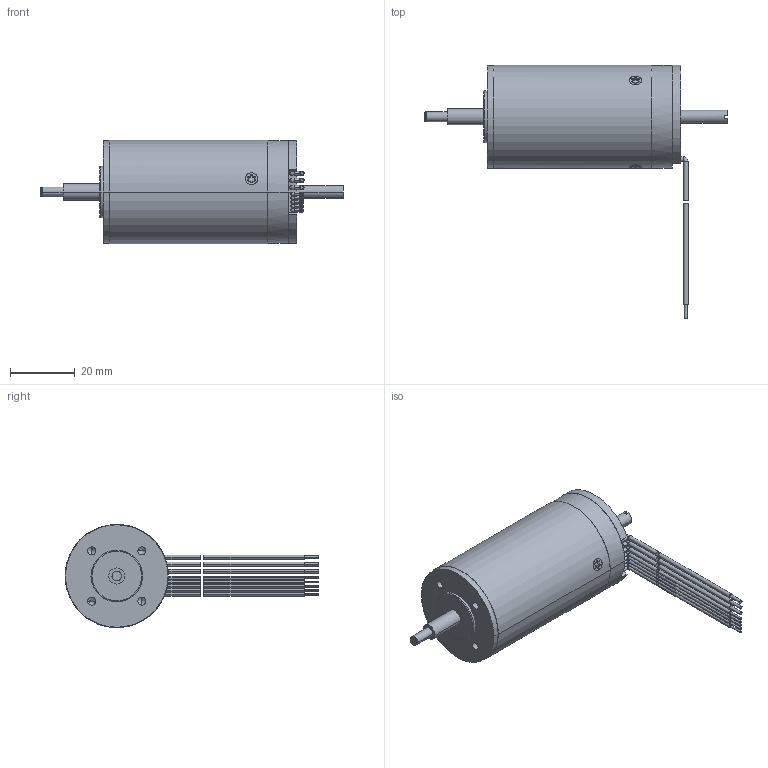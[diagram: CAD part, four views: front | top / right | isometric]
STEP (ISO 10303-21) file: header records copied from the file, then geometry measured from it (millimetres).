
FILE_DESCRIPTION((''),'2;1');
FILE_NAME('118891_EC32_80W','2016-10-17T',('mmagpetk'),(''),'CREO PARAMETRIC BY PTC INC, 2016050','CREO PARAMETRIC BY PTC INC, 2016050','');
FILE_SCHEMA(('CONFIG_CONTROL_DESIGN'));
Length unit declared in the file: millimetre
Products named in the file (1): 118891_EC32_80W
Bounding box: 93.9 x 78.65 x 32 mm (x, y, z)
Volume: 49047.3 mm3; surface area: 10078.6 mm2
Topology: 9 solids, 9 shells, 541 faces, 1241 edges, 749 vertices
Faces by surface type: cylinder 267, plane 146, torus 97, cone 16, bspline 15
Entity records: 21383 total; most frequent: CARTESIAN_POINT 3016, DIRECTION 2935, ORIENTED_EDGE 2466, PRESENTATION_STYLE_ASSIGNMENT 1409, STYLED_ITEM 1242, CURVE_STYLE 1233, EDGE_CURVE 1233, AXIS2_PLACEMENT_3D 1198
